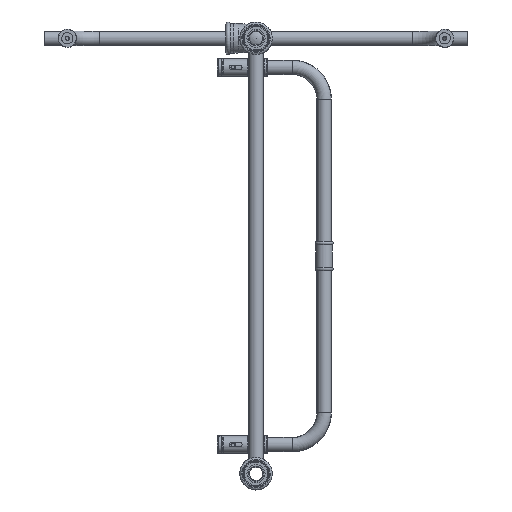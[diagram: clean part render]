
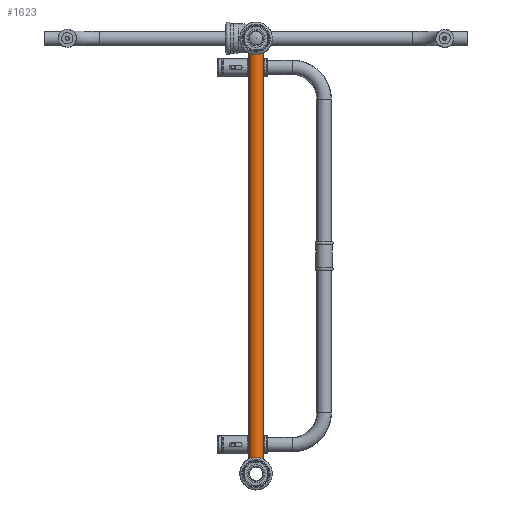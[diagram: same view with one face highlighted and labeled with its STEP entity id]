
A CAD part, front view. The second image highlights one B-rep face of the part: STEP entity #1623.
In plain terms, the highlighted cylindrical face has radius 10 mm (diameter 20 mm), a full revolution.
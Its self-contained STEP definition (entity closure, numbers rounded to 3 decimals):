
#1623 = ADVANCED_FACE( '', ( #3460, #3461 ), #3462, .T. );
#3460 = FACE_OUTER_BOUND( '', #5504, .T. );
#3461 = FACE_OUTER_BOUND( '', #5505, .T. );
#3462 = CYLINDRICAL_SURFACE( '', #5506, 10. );
#5504 = EDGE_LOOP( '', ( #8092 ) );
#5505 = EDGE_LOOP( '', ( #8093 ) );
#5506 = AXIS2_PLACEMENT_3D( '', #8094, #8095, #8096 );
#8092 = ORIENTED_EDGE( '', *, *, #9128, .T. );
#8093 = ORIENTED_EDGE( '', *, *, #8810, .F. );
#8094 = CARTESIAN_POINT( '', ( 292., 0., 0. ) );
#8095 = DIRECTION( '', ( 1., 0., 0. ) );
#8096 = DIRECTION( '', ( 0., 0., 1. ) );
#8810 = EDGE_CURVE( '', #9959, #9959, #9960, .T. );
#9128 = EDGE_CURVE( '', #10423, #10423, #10424, .T. );
#9959 = VERTEX_POINT( '', #19009 );
#9960 = CIRCLE( '', #19010, 10. );
#10423 = VERTEX_POINT( '', #21006 );
#10424 = CIRCLE( '', #21007, 10. );
#19009 = CARTESIAN_POINT( '', ( -292., 10., 0. ) );
#19010 = AXIS2_PLACEMENT_3D( '', #21761, #21762, #21763 );
#21006 = CARTESIAN_POINT( '', ( 292., 10., 0. ) );
#21007 = AXIS2_PLACEMENT_3D( '', #22145, #22146, #22147 );
#21761 = CARTESIAN_POINT( '', ( -292., 0., 0. ) );
#21762 = DIRECTION( '', ( -1., 0., 0. ) );
#21763 = DIRECTION( '', ( 0., 1., 0. ) );
#22145 = CARTESIAN_POINT( '', ( 292., 0., 0. ) );
#22146 = DIRECTION( '', ( -1., 0., 0. ) );
#22147 = DIRECTION( '', ( 0., 1., 0. ) );
